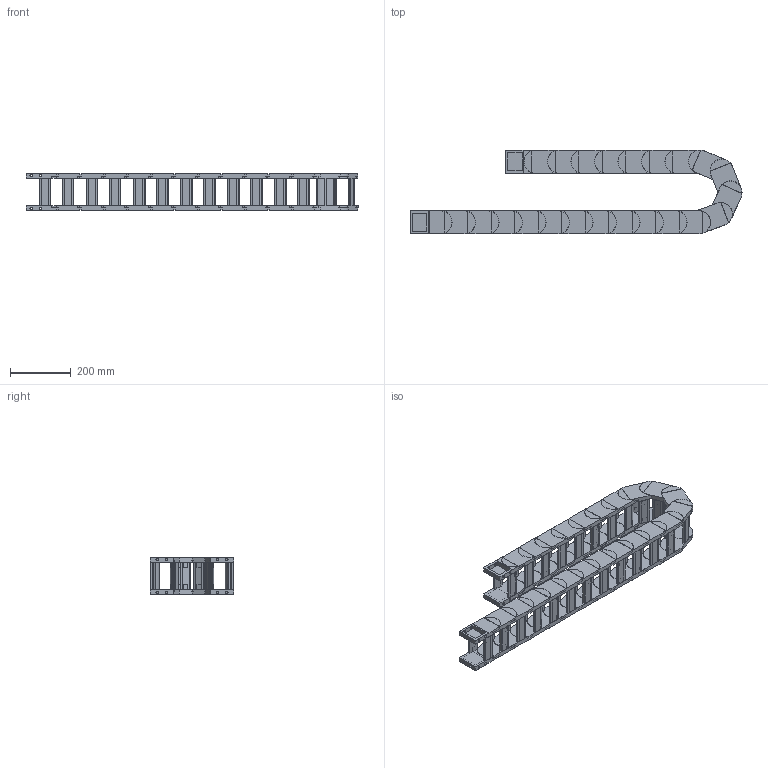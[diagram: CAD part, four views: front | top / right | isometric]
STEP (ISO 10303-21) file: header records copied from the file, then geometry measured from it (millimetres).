
FILE_DESCRIPTION((''),'2;1');
FILE_NAME('HD55-R100-ZPT_ASM','2022-06-17T19:41:38',('admin'),(''),'CREO PARAMETRIC BY PTC INC, 2021164','CREO PARAMETRIC BY PTC INC, 2021164','');
FILE_SCHEMA(('CONFIG_CONTROL_DESIGN','GEOMETRIC_VALIDATION_PROPERTIES_MIM'));
Length unit declared in the file: millimetre
Products named in the file (6): HD-55; 55-500001; HD55_ASM; H55-T1; H55-T2; HD55-R100-ZPT_ASM
Assembly tree (28 placements, depth 3):
  HD55-R100-ZPT_ASM
    HD55_ASM  x22
      HD-55
      55-500001
    H55-T1
    H55-T2
    55-500001  x2
Bounding box: 1094.64 x 275.91 x 122.4 mm (x, y, z)
Volume: 5513611.6 mm3; surface area: 1725673.2 mm2
Topology: 96 solids, 96 shells, 1598 faces, 4102 edges, 2796 vertices
Faces by surface type: plane 1316, cylinder 282
Entity records: 8759 total; most frequent: CARTESIAN_POINT 1292, DIRECTION 1254, ORIENTED_EDGE 1172, EDGE_CURVE 586, VECTOR 418, LINE 418, AXIS2_PLACEMENT_3D 418, VERTEX_POINT 396
